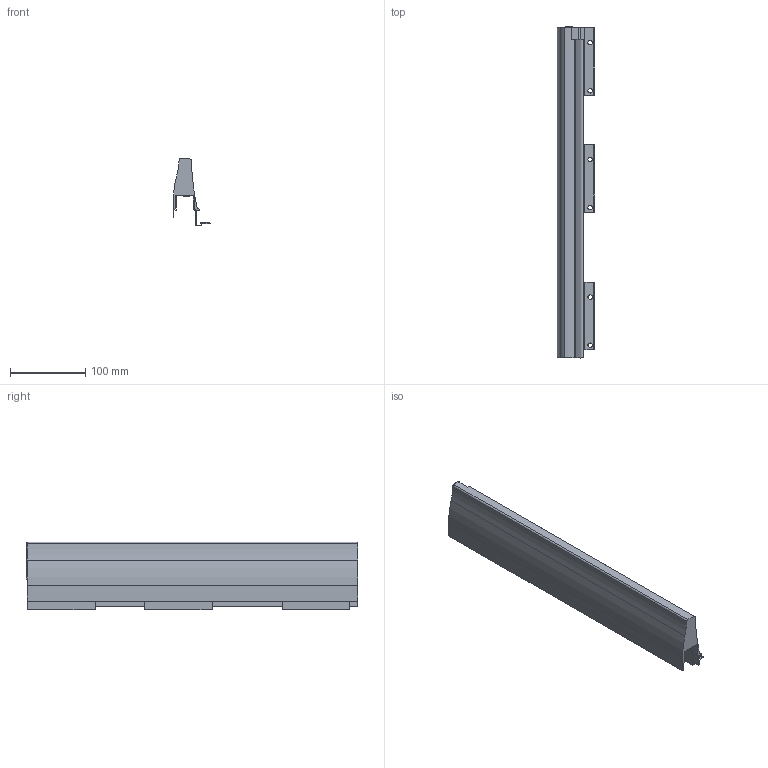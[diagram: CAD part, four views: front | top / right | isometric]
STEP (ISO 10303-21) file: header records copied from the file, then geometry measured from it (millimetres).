
FILE_DESCRIPTION (( 'STEP AP214' ), '1' );
FILE_NAME ('_XP Standard Dekorseite H95 NL450 LI .step', '2010-07-14T06:09:10', ( 'grass' ), ( '' ), 'SwSTEP 2.0', 'SolidWorks 2010', '' );
FILE_SCHEMA (( 'AUTOMOTIVE_DESIGN' ));
Length unit declared in the file: millimetre
Products named in the file (1): _XP Standard Dekorseite H95 NL450 LI  
Bounding box: 50.01 x 441.5 x 90 mm (x, y, z)
Volume: 538745.3 mm3; surface area: 146809.3 mm2
Topology: 1 solids, 1 shells, 133 faces, 390 edges, 254 vertices
Faces by surface type: plane 103, cylinder 30
Entity records: 4433 total; most frequent: ORIENTED_EDGE 780, CARTESIAN_POINT 778, DIRECTION 721, EDGE_CURVE 390, LINE 327, VECTOR 327, VERTEX_POINT 254, AXIS2_PLACEMENT_3D 197
